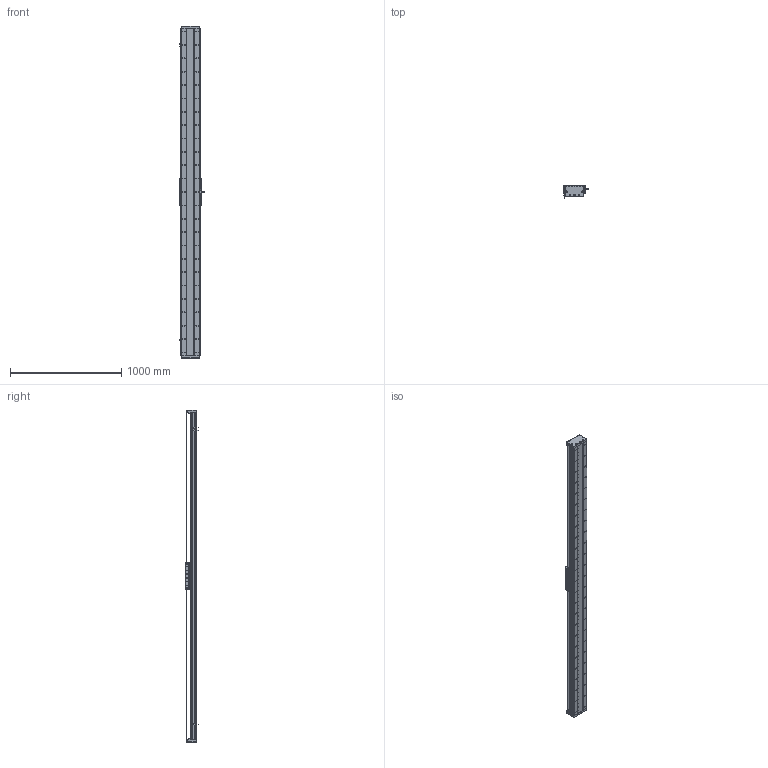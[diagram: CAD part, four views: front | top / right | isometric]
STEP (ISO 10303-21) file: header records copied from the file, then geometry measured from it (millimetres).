
FILE_DESCRIPTION (( 'STEP AP203' ), '1' );
FILE_NAME ('DA-C165-C3-T2640-C010-0.2 直线电机.STEP', '2023-06-13T08:55:42', ( '微软用户' ), ( '微软中国' ), 'SwSTEP 2.0', 'SolidWorks 2019', '' );
FILE_SCHEMA (( 'CONFIG_CONTROL_DESIGN' ));
Length unit declared in the file: millimetre
Products named in the file (18): 葩璃 PM-T45^DA-C165-C3-T-C010-0.2-N 眻盄萇儂; 复件 DA165-GD-1860-002-00 钢带盖板^复件 CU165钢带组件_DA-C165-C3-T-C010-0.2-N 直线电机; 复件 DMA-010-0.2 读数头^DA-C165-C3-T-C010-0.2-N 直线电机; 葩璃 DA95-GT-T-00^IU-CU165-L 菁釱絳寢_T; 复件 XD-U-02L 磁栅尺^DA-C165-C3-T-C010-0.2-N 直线电机_T; 复件 DA165-GDLK-00 钢带拉块^复件 CU165钢带组件_DA-C165-C3-T-C010-0.2-N 直线电机; 葩璃 CKM03-W075-C1C2-TP-3.0^DA-C165-C3-T-C010-0.2-N 眻盄萇儂; 葩璃 CKM01-W075-TRL^DA-C165-C3-T-C010-0.2-N 眻盄萇儂; 复件 DA95-HXJ-00 缓冲橡胶^DA-C165-C3-T-C010-0.2-N 直线电机; 复件 CU165 底座^IU-CU165-L 底座导轨_L2940; 复件 DA165-GYP-00 光电感应片^DA-C165-C3-T-C010-0.2-N 直线电机; 复件 CU165钢带组件^DA-C165-C3-T-C010-0.2-N 直线电机; 复件 六角薄螺母 M3^DA-C165-C3-T-C010-0.2-N 直线电机_GB_FASTENER_NUT_STNAB M3-C; IU-CU165-L 菁釱絳寢; 珨极趙賑雄怢啣C3-wf; 复件 DA165-GD-DG-H-00 端盖^复件 CU165钢带组件_DA-C165-C3-T-C010-0.2-N 直线电机; DA-C165-C3-T2640-C010-0.2 眻盄萇儂; 复件 DA165-GDYK-00 钢带压块^复件 CU165钢带组件_DA-C165-C3-T-C010-0.2-N 直线电机
Assembly tree (35 placements, depth 3):
  DA-C165-C3-T2640-C010-0.2 眻盄萇儂
    IU-CU165-L 菁釱絳寢
      复件 CU165 底座^IU-CU165-L 底座导轨_L2940
      葩璃 DA95-GT-T-00^IU-CU165-L 菁釱絳寢_T  x4
    复件 XD-U-02L 磁栅尺^DA-C165-C3-T-C010-0.2-N 直线电机_T
    葩璃 PM-T45^DA-C165-C3-T-C010-0.2-N 眻盄萇儂  x3
    葩璃 CKM01-W075-TRL^DA-C165-C3-T-C010-0.2-N 眻盄萇儂
    复件 CU165钢带组件^DA-C165-C3-T-C010-0.2-N 直线电机
      复件 DA165-GD-DG-H-00 端盖^复件 CU165钢带组件_DA-C165-C3-T-C010-0.2-N 直线电机  x2
      复件 DA165-GDYK-00 钢带压块^复件 CU165钢带组件_DA-C165-C3-T-C010-0.2-N 直线电机  x2
      复件 DA165-GD-1860-002-00 钢带盖板^复件 CU165钢带组件_DA-C165-C3-T-C010-0.2-N 直线电机
      复件 DA165-GDLK-00 钢带拉块^复件 CU165钢带组件_DA-C165-C3-T-C010-0.2-N 直线电机  x2
    复件 DA95-HXJ-00 缓冲橡胶^DA-C165-C3-T-C010-0.2-N 直线电机  x4
    复件 DA165-GYP-00 光电感应片^DA-C165-C3-T-C010-0.2-N 直线电机
    复件 DMA-010-0.2 读数头^DA-C165-C3-T-C010-0.2-N 直线电机
    葩璃 CKM03-W075-C1C2-TP-3.0^DA-C165-C3-T-C010-0.2-N 眻盄萇儂
    复件 六角薄螺母 M3^DA-C165-C3-T-C010-0.2-N 直线电机_GB_FASTENER_NUT_STNAB M3-C  x8
    珨极趙賑雄怢啣C3-wf
Bounding box: 233 x 111.45 x 2980 mm (x, y, z)
Volume: 16818859.3 mm3; surface area: 5026244 mm2
Topology: 72 solids, 122 shells, 4542 faces, 13167 edges, 8348 vertices
Faces by surface type: cylinder 2688, plane 1228, cone 576, torus 46, sphere 4
Entity records: 152949 total; most frequent: CARTESIAN_POINT 42221, ORIENTED_EDGE 23086, DIRECTION 22353, EDGE_CURVE 11543, AXIS2_PLACEMENT_3D 8604, VERTEX_POINT 7536, EDGE_LOOP 5337, LINE 5145
